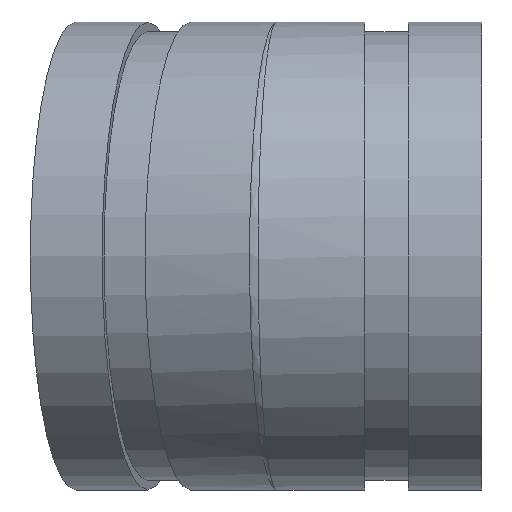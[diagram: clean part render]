
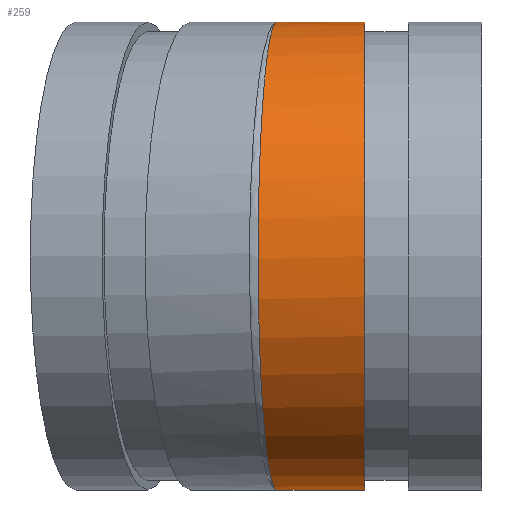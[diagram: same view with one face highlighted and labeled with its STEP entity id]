
A CAD part, left-side view. The second image highlights one B-rep face of the part: STEP entity #259.
In plain terms, the highlighted cylindrical face has radius 50.8 mm (diameter 101.6 mm), a full revolution.
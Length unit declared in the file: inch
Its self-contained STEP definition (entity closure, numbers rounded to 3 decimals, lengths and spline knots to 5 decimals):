
#27=LINE('',#525,#35);
#35=VECTOR('',#364,2.);
#43=CIRCLE('',#299,2.);
#59=CYLINDRICAL_SURFACE('',#305,2.);
#71=FACE_OUTER_BOUND('',#89,.T.);
#89=EDGE_LOOP('',(#187,#188,#189,#190,#191,#192));
#106=ELLIPSE('',#292,2.01363,2.);
#107=ELLIPSE('',#293,2.01363,2.);
#109=ELLIPSE('',#297,2.00639,2.);
#113=VERTEX_POINT('',#458);
#115=VERTEX_POINT('',#461);
#116=VERTEX_POINT('',#463);
#118=VERTEX_POINT('',#513);
#138=EDGE_CURVE('',#115,#116,#106,.T.);
#139=EDGE_CURVE('',#116,#113,#107,.T.);
#143=EDGE_CURVE('',#113,#115,#109,.T.);
#144=EDGE_CURVE('',#118,#118,#43,.T.);
#149=EDGE_CURVE('',#116,#118,#27,.T.);
#187=ORIENTED_EDGE('',*,*,#138,.F.);
#188=ORIENTED_EDGE('',*,*,#143,.F.);
#189=ORIENTED_EDGE('',*,*,#139,.F.);
#190=ORIENTED_EDGE('',*,*,#149,.T.);
#191=ORIENTED_EDGE('',*,*,#144,.F.);
#192=ORIENTED_EDGE('',*,*,#149,.F.);
#259=ADVANCED_FACE('',(#71),#59,.T.);
#292=AXIS2_PLACEMENT_3D('',#464,#335,#336);
#293=AXIS2_PLACEMENT_3D('',#465,#337,#338);
#297=AXIS2_PLACEMENT_3D('',#511,#346,#347);
#299=AXIS2_PLACEMENT_3D('',#514,#350,#351);
#305=AXIS2_PLACEMENT_3D('',#524,#362,#363);
#335=DIRECTION('center_axis',(0.116,0.993,0.));
#336=DIRECTION('ref_axis',(0.993,-0.116,0.));
#337=DIRECTION('center_axis',(0.116,0.993,0.));
#338=DIRECTION('ref_axis',(0.993,-0.116,0.));
#346=DIRECTION('center_axis',(0.08,0.997,0.));
#347=DIRECTION('ref_axis',(-0.997,0.08,0.));
#350=DIRECTION('center_axis',(0.,-1.,0.));
#351=DIRECTION('ref_axis',(-1.,0.,0.));
#362=DIRECTION('center_axis',(0.,1.,0.));
#363=DIRECTION('ref_axis',(-1.,0.,0.));
#364=DIRECTION('',(0.,-1.,0.));
#458=CARTESIAN_POINT('',(0.,1.75,-2.));
#461=CARTESIAN_POINT('',(0.,1.75,2.));
#463=CARTESIAN_POINT('',(2.,1.51608,0.));
#464=CARTESIAN_POINT('Origin',(0.,1.75,0.));
#465=CARTESIAN_POINT('Origin',(0.,1.75,0.));
#511=CARTESIAN_POINT('Origin',(0.,1.75,0.));
#513=CARTESIAN_POINT('',(2.,1.,0.));
#514=CARTESIAN_POINT('Origin',(0.,1.,0.));
#524=CARTESIAN_POINT('Origin',(0.,1.,0.));
#525=CARTESIAN_POINT('',(2.,1.,0.));
